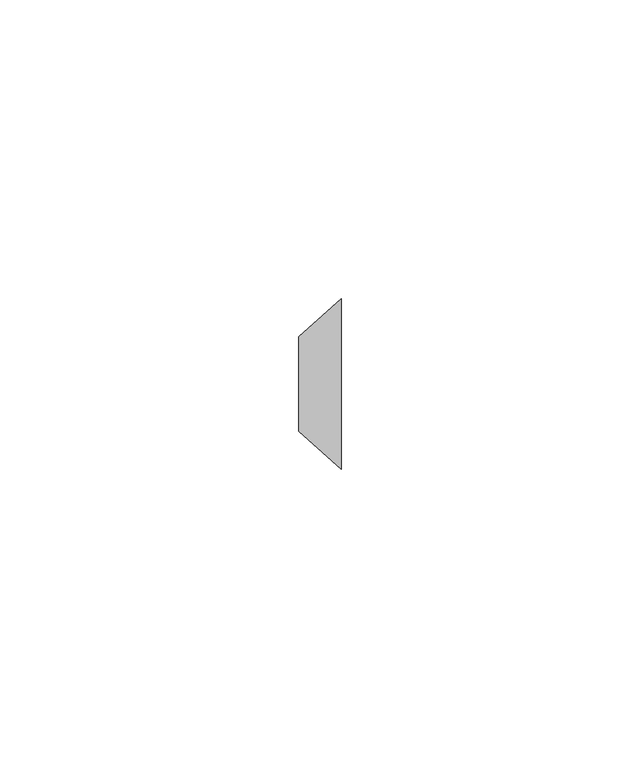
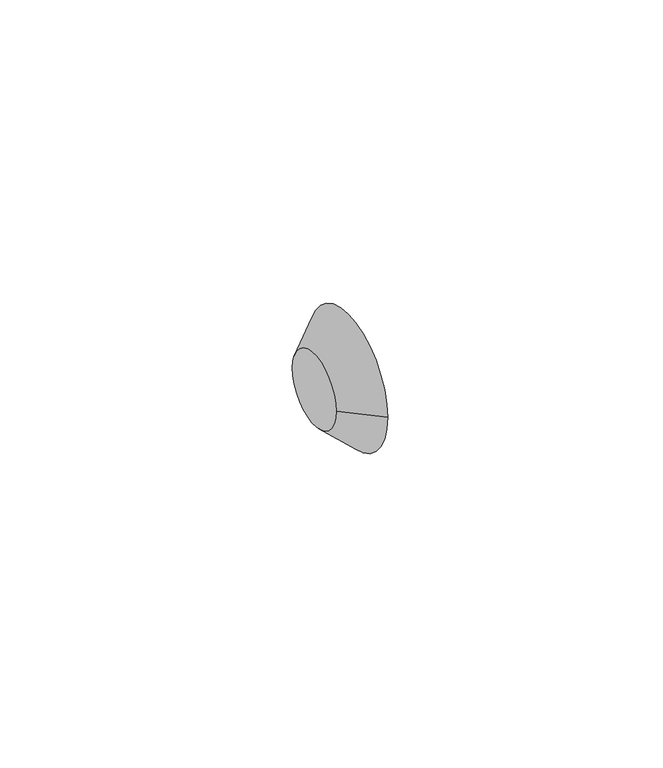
"""IFC4 building model written with IfcOpenShell, lengths in millimetres: pipe fitting geometry, M_Transición - Genérica : Estándar."""

from ifc_helpers import new_model, si_unit, frame, origin, place, context, project, spatial, polyline, circle_curve, source, transform, mapped, element, save
from ifc_brep_helpers import plane_surface, revolved_surface, advanced_brep


def pipe_fitting_55f5cc9a(model_context):
    return source(origin(), model_context, "Body", "AdvancedBrep", [
        advanced_brep(
        [(7.14375, -14.2875, 0.0), (7.14375, 14.2875, 0.0), (0.0, -7.9375, 0.0), (0.0, 7.9375, 0.0)],
        [
            (0, 1, circle_curve(frame((7.14375, 0.0, 0.0), z_axis=(1.0, 0.0, 0.0), x_axis=(0.0, -1.0, 0.0)), 14.2875)),
            (1, 0, circle_curve(frame((7.14375, 0.0, 0.0), z_axis=(1.0, 0.0, 0.0), x_axis=(0.0, 1.0, 0.0)), 14.2875)),
            (2, 3, circle_curve(frame((0.0, 0.0, 0.0), z_axis=(-1.0, 0.0, 0.0), x_axis=(0.0, 1.0, 0.0)), 7.9375)),
            (3, 2, circle_curve(frame((0.0, 0.0, 0.0), z_axis=(-1.0, 0.0, 0.0), x_axis=(0.0, -1.0, 0.0)), 7.9375)),
            (3, 1),
            (0, 2),
        ],
        [
            plane_surface(frame((7.14375, 0.0, 0.0), z_axis=(1.0, 0.0, 0.0), x_axis=(0.0, 0.0, -1.0))),
            plane_surface(frame((0.0, 0.0, 0.0), z_axis=(-1.0, 0.0, 0.0), x_axis=(0.0, 0.0, -1.0))),
            revolved_surface(polyline([(0.0, 7.9375, 0.0), (7.143750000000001, 14.2875, 0.0)]), (-8.9296875, 0.0, 0.0), (1.0, 0.0, 0.0)),
            revolved_surface(polyline([(0.0, -7.9375, 0.0), (7.143750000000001, -14.2875, 0.0)]), (-8.9296875, 0.0, 0.0), (1.0, 0.0, 0.0)),
        ],
        [
            (0, [[1, 2]]),
            (1, [[3, 4]]),
            (2, [[-4, 5, -1, 6]]),
            (3, [[-3, -6, -2, -5]]),
        ],
    ),
    ])


if __name__ == "__main__":
    model = new_model("IFC4")
    model_context = context("Model", 3, world=origin())
    ifc_project = project(units=[si_unit("LENGTHUNIT", "METRE", prefix="MILLI")], contexts=[model_context])
    site = spatial("IfcSite", under=ifc_project)
    building = spatial("IfcBuilding", under=site)
    placement = place(None, origin())
    pipe_fitting_shape = pipe_fitting_55f5cc9a(model_context)
    element("IfcPipeFitting", 1, ObjectType="M_Transición - Genérica : Estándar", at=placement, inside=building, context=model_context, shape_type="MappedRepresentation", body=[
        mapped(pipe_fitting_shape, transform((0.0, 0.0, 0.0), x_axis=(1.0, 0.0, 0.0), y_axis=(0.0, 1.0, 0.0), z_axis=(0.0, 0.0, 1.0))),
    ])
    save(model, "model.ifc")
